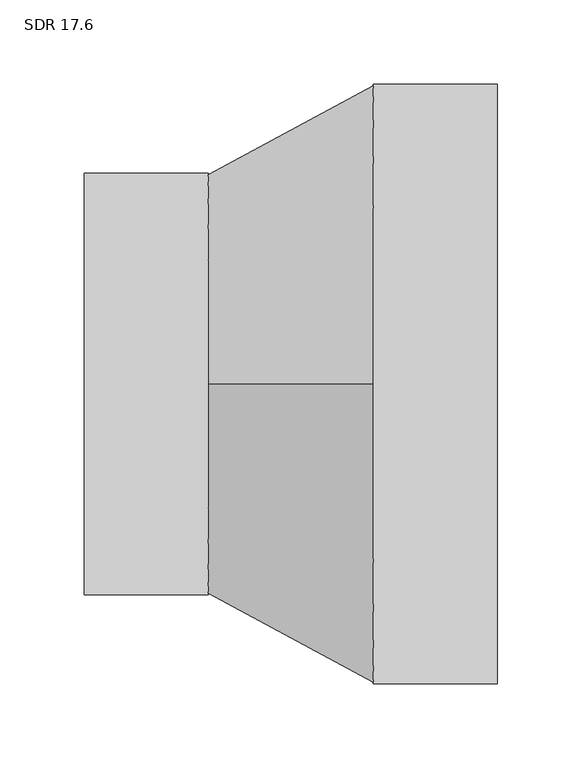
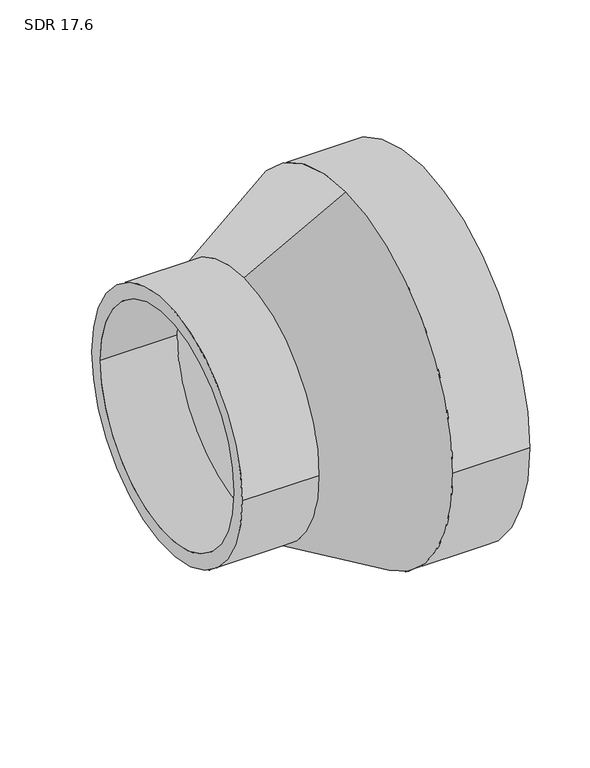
"""IFC4 building model written with IfcOpenShell, lengths in millimetres: pipe fitting geometry, Aquatherm - Reducing Coupling Combined - METRIC : SDR 17.6."""

from ifc_helpers import new_model, si_unit, frame, origin, place, context, project, spatial, polyline, circle_curve, source, transform, mapped, element, save
from ifc_brep_helpers import plane_surface, cylinder_surface, revolved_surface, advanced_brep


def sdr_17_6_74a0d4bb(model_context):
    return source(origin(), model_context, "Body", "AdvancedBrep", [
        advanced_brep(
        [(-122.555, -124.968, 0.0), (-122.555, 124.968, 0.0), (-122.555, -110.7670909, 0.0), (-122.555, 110.7670909, 0.0), (-49.022, 110.7670909, 0.0), (-49.022, 0.0, 110.7670909), (-49.022, -110.7670909, 0.0), (-49.022, 0.0, -110.7670909), (-49.022, 124.968, 0.0), (-49.022, 0.0, -124.968), (-49.022, -124.968, 0.0), (-49.022, 0.0, 124.968), (122.555, -177.8, 0.0), (122.555, 177.8, 0.0), (122.555, -157.5954545, 0.0), (122.555, 157.5954545, 0.0), (49.022, -177.8, 0.0), (49.022, 0.0, -177.8), (49.022, 177.8, 0.0), (49.022, 0.0, 177.8), (49.022, -157.5954545, 0.0), (49.022, 0.0, 157.5954545), (49.022, 157.5954545, 0.0), (49.022, 0.0, -157.5954545)],
        [
            (0, 1, circle_curve(frame((-122.555, 0.0, 0.0), z_axis=(-1.0, 0.0, 0.0), x_axis=(0.0, 1.0, 0.0)), 124.968)),
            (1, 0, circle_curve(frame((-122.555, 0.0, 0.0), z_axis=(-1.0, 0.0, 0.0), x_axis=(0.0, 1.0, 0.0)), 124.968)),
            (2, 3, circle_curve(frame((-122.555, 0.0, 0.0), z_axis=(1.0, 0.0, 0.0), x_axis=(0.0, 1.0, 0.0)), 110.7670909)),
            (3, 2, circle_curve(frame((-122.555, 0.0, 0.0), z_axis=(1.0, 0.0, 0.0), x_axis=(0.0, 1.0, 0.0)), 110.7670909)),
            (3, 4),
            (4, 5, circle_curve(frame((-49.022, 0.0, 0.0), z_axis=(1.0, 0.0, 0.0), x_axis=(0.0, 1.0, 0.0)), 110.7670909)),
            (5, 6, circle_curve(frame((-49.022, 0.0, 0.0), z_axis=(1.0, 0.0, 0.0), x_axis=(0.0, 1.0, 0.0)), 110.7670909)),
            (6, 2),
            (6, 7, circle_curve(frame((-49.022, 0.0, 0.0), z_axis=(1.0, 0.0, 0.0), x_axis=(0.0, 1.0, 0.0)), 110.7670909)),
            (7, 4, circle_curve(frame((-49.022, 0.0, 0.0), z_axis=(1.0, 0.0, 0.0), x_axis=(0.0, 1.0, 0.0)), 110.7670909)),
            (1, 8),
            (8, 9, circle_curve(frame((-49.022, 0.0, 0.0), z_axis=(-1.0, 0.0, 0.0), x_axis=(0.0, 1.0, 0.0)), 124.968)),
            (9, 10, circle_curve(frame((-49.022, 0.0, 0.0), z_axis=(-1.0, 0.0, 0.0), x_axis=(0.0, 1.0, 0.0)), 124.968)),
            (10, 0),
            (10, 11, circle_curve(frame((-49.022, 0.0, 0.0), z_axis=(-1.0, 0.0, 0.0), x_axis=(0.0, 1.0, 0.0)), 124.968)),
            (11, 8, circle_curve(frame((-49.022, 0.0, 0.0), z_axis=(-1.0, 0.0, 0.0), x_axis=(0.0, 1.0, 0.0)), 124.968)),
            (12, 13, circle_curve(frame((122.555, 0.0, 0.0), z_axis=(1.0, 0.0, 0.0), x_axis=(0.0, 1.0, 0.0)), 177.8)),
            (13, 12, circle_curve(frame((122.555, 0.0, 0.0), z_axis=(1.0, 0.0, 0.0), x_axis=(0.0, 1.0, 0.0)), 177.8)),
            (14, 15, circle_curve(frame((122.555, 0.0, 0.0), z_axis=(-1.0, 0.0, 0.0), x_axis=(0.0, 1.0, 0.0)), 157.5954545)),
            (15, 14, circle_curve(frame((122.555, 0.0, 0.0), z_axis=(-1.0, 0.0, 0.0), x_axis=(0.0, 1.0, 0.0)), 157.5954545)),
            (12, 16),
            (16, 17, circle_curve(frame((49.022, 0.0, 0.0), z_axis=(1.0, 0.0, 0.0), x_axis=(0.0, 1.0, 0.0)), 177.8)),
            (17, 18, circle_curve(frame((49.022, 0.0, 0.0), z_axis=(1.0, 0.0, 0.0), x_axis=(0.0, 1.0, 0.0)), 177.8)),
            (18, 13),
            (18, 19, circle_curve(frame((49.022, 0.0, 0.0), z_axis=(1.0, 0.0, 0.0), x_axis=(0.0, 1.0, 0.0)), 177.8)),
            (19, 16, circle_curve(frame((49.022, 0.0, 0.0), z_axis=(1.0, 0.0, 0.0), x_axis=(0.0, 1.0, 0.0)), 177.8)),
            (14, 20),
            (20, 21, circle_curve(frame((49.022, 0.0, 0.0), z_axis=(-1.0, 0.0, 0.0), x_axis=(0.0, 1.0, 0.0)), 157.5954545)),
            (21, 22, circle_curve(frame((49.022, 0.0, 0.0), z_axis=(-1.0, 0.0, 0.0), x_axis=(0.0, 1.0, 0.0)), 157.5954545)),
            (22, 15),
            (22, 23, circle_curve(frame((49.022, 0.0, 0.0), z_axis=(-1.0, 0.0, 0.0), x_axis=(0.0, 1.0, 0.0)), 157.5954545)),
            (23, 20, circle_curve(frame((49.022, 0.0, 0.0), z_axis=(-1.0, 0.0, 0.0), x_axis=(0.0, 1.0, 0.0)), 157.5954545)),
            (11, 19),
            (17, 9),
            (21, 5),
            (7, 23),
        ],
        [
            plane_surface(frame((-122.555, 110.7670909, 0.0), z_axis=(-1.0, 0.0, 0.0), x_axis=(0.0, 0.0, 1.0))),
            revolved_surface(polyline([(-122.555, 110.7670909, 0.0), (-49.02199999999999, 110.7670909, 0.0)]), (-122.555, 0.0, 0.0), (-1.0, 0.0, 0.0)),
            cylinder_surface(frame((0.0, 0.0, 0.0), z_axis=(1.0, 0.0, 0.0), x_axis=(0.0, 1.0, 0.0)), 124.968),
            plane_surface(frame((122.555, 177.8, 0.0), z_axis=(1.0, 0.0, 0.0), x_axis=(0.0, 0.0, 1.0))),
            cylinder_surface(frame((49.022, 0.0, 0.0), z_axis=(1.0, 0.0, 0.0), x_axis=(0.0, 1.0, 0.0)), 177.8),
            revolved_surface(polyline([(49.022, 157.5954545, 0.0), (122.555, 157.5954545, 0.0)]), (0.0, 0.0, 0.0), (-1.0, 0.0, 0.0)),
            revolved_surface(polyline([(49.022, 0.0, 177.8), (-49.022, 0.0, 124.968)]), (-697.8145384, 0.0, 0.0), (-1.0, 0.0, 0.0)),
            revolved_surface(polyline([(-49.022, 0.0, 110.7670909), (49.022, 0.0, 157.5954545)]), (-697.8145384, 0.0, 0.0), (-1.0, 0.0, 0.0)),
        ],
        [
            (0, [[1, 2], [3, 4]]),
            (1, [[-4, 5, 6, 7, 8]]),
            (1, [[-3, -8, 9, 10, -5]]),
            (2, [[-2, 11, 12, 13, 14]]),
            (2, [[-1, -14, 15, 16, -11]]),
            (3, [[17, 18], [19, 20]]),
            (4, [[-17, 21, 22, 23, 24]]),
            (4, [[-18, -24, 25, 26, -21]]),
            (5, [[-19, 27, 28, 29, 30]]),
            (5, [[-20, -30, 31, 32, -27]]),
            (6, [[33, -25, -23, 34, -12, -16]]),
            (6, [[-33, -15, -13, -34, -22, -26]]),
            (7, [[35, -6, -10, 36, -31, -29]]),
            (7, [[-35, -28, -32, -36, -9, -7]]),
        ],
    ),
    ])


if __name__ == "__main__":
    model = new_model("IFC4")
    model_context = context("Model", 3, world=origin())
    ifc_project = project(units=[si_unit("LENGTHUNIT", "METRE", prefix="MILLI")], contexts=[model_context])
    site = spatial("IfcSite", under=ifc_project)
    building = spatial("IfcBuilding", under=site)
    placement = place(None, origin())
    sdr_17_6_shape = sdr_17_6_74a0d4bb(model_context)
    element("IfcPipeFitting", 1, ObjectType="Aquatherm - Reducing Coupling Combined - METRIC : SDR 17.6", at=placement, inside=building, context=model_context, shape_type="MappedRepresentation", body=[
        mapped(sdr_17_6_shape, transform((0.0, 0.0, 0.0), x_axis=(1.0, 0.0, 0.0), y_axis=(0.0, 1.0, 0.0), z_axis=(0.0, 0.0, 1.0))),
    ])
    save(model, "model.ifc")
